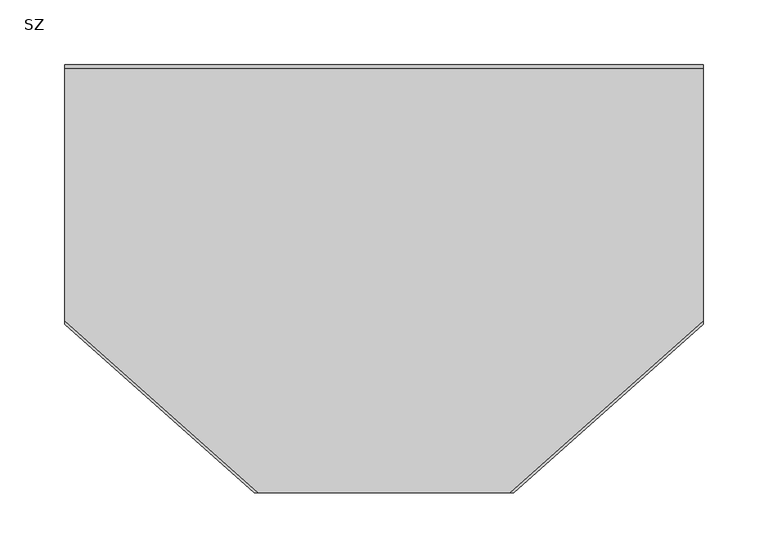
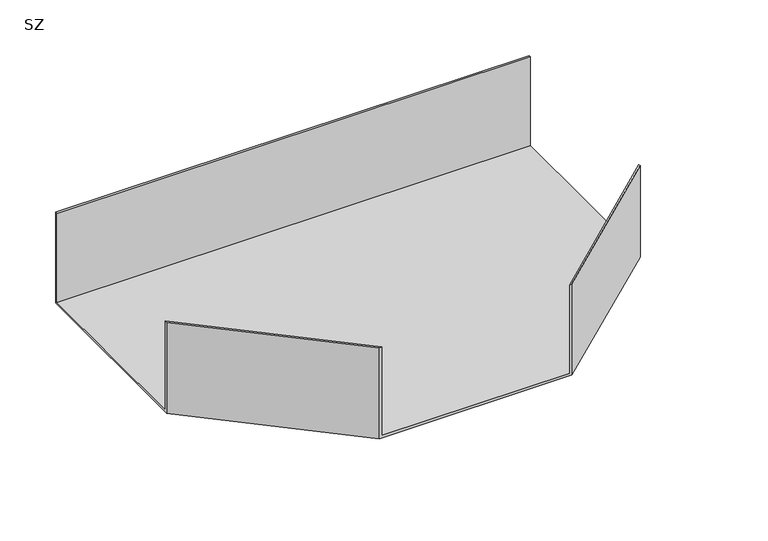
"""IFC4 building model written with IfcOpenShell, lengths in millimetres: cable carrier fitting geometry, IEK_Листовой_Разветвитель Т-обр : SZ."""

from ifc_helpers import new_model, si_unit, origin, place, context, project, spatial, faceted_brep, source, transform, mapped, element, save


def sz_c7358d7a(model_context):
    return source(origin(), model_context, "Body", "Brep", [
        faceted_brep([(246.0, -100.0, 50.0), (246.0, -97.5, 50.0), (97.5, -230.0, 50.0), (100.0, -230.0, 50.0), (246.0, 100.0, 50.0), (-246.0, 100.0, 50.0), (-246.0, 97.5, 50.0), (246.0, 97.5, 50.0), (-246.0, -100.0, 50.0), (-100.0, -230.0, 50.0), (-97.5, -230.0, 50.0), (-246.0, -97.5, 50.0), (-246.0, 100.0, -50.0), (246.0, 100.0, -50.0), (246.0, -100.0, -50.0), (100.0, -230.0, -50.0), (-100.0, -230.0, -50.0), (-246.0, -100.0, -50.0), (97.5, -230.0, -47.5), (-97.5, -230.0, -47.5), (-246.0, -97.5, -47.5), (-246.0, 97.5, -47.5), (246.0, 97.5, -47.5), (246.0, -97.5, -47.5)], [[[0, 1, 2, 3]], [[4, 5, 6, 7]], [[8, 9, 10, 11]], [[12, 13, 14, 15, 16, 17]], [[10, 9, 16, 15, 3, 2, 18, 19]], [[8, 11, 20, 21, 6, 5, 12, 17]], [[1, 0, 14, 13, 4, 7, 22, 23]], [[12, 5, 4, 13]], [[7, 6, 21, 22]], [[21, 20, 19, 18, 23, 22]], [[16, 9, 8, 17]], [[11, 10, 19, 20]], [[2, 1, 23, 18]], [[14, 0, 3, 15]]]),
    ])


if __name__ == "__main__":
    model = new_model("IFC4")
    model_context = context("Model", 3, world=origin())
    ifc_project = project(units=[si_unit("LENGTHUNIT", "METRE", prefix="MILLI")], contexts=[model_context])
    site = spatial("IfcSite", under=ifc_project)
    building = spatial("IfcBuilding", under=site)
    placement = place(None, origin())
    sz_shape = sz_c7358d7a(model_context)
    element("IfcCableCarrierFitting", 1, ObjectType="IEK_Листовой_Разветвитель Т-обр : SZ", at=placement, inside=building, context=model_context, shape_type="MappedRepresentation", body=[
        mapped(sz_shape, transform((0.0, 0.0, 0.0), x_axis=(1.0, 0.0, 0.0), y_axis=(0.0, 1.0, 0.0), z_axis=(0.0, 0.0, 1.0))),
    ])
    save(model, "model.ifc")
